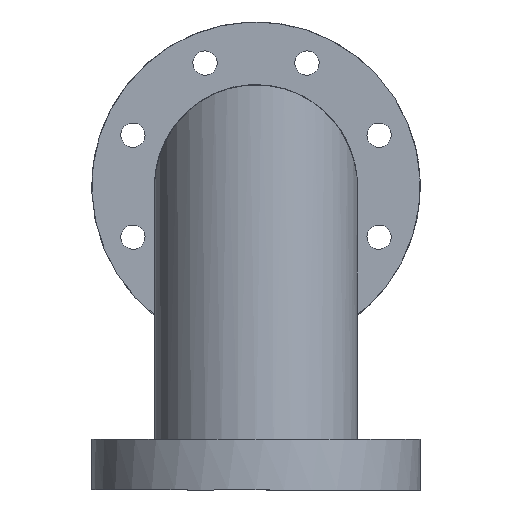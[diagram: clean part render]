
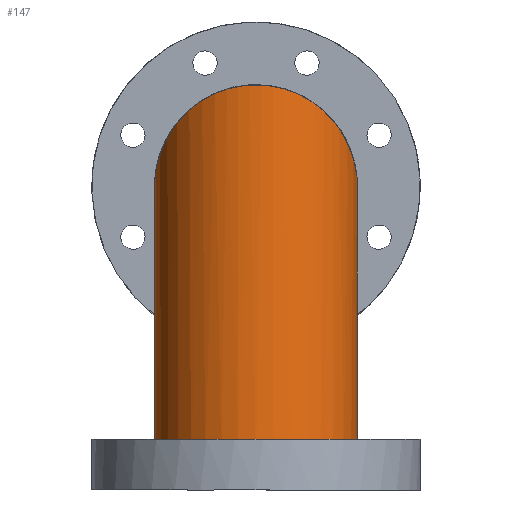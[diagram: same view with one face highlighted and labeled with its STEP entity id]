
A CAD part, left-side view. The second image highlights one B-rep face of the part: STEP entity #147.
In plain terms, the highlighted cylindrical face has radius 35 mm (diameter 70 mm), a full revolution.
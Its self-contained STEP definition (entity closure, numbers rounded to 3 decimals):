
#147 = ADVANCED_FACE( '', ( #271, #272 ), #273, .T. );
#271 = FACE_OUTER_BOUND( '', #423, .T. );
#272 = FACE_OUTER_BOUND( '', #424, .T. );
#273 = CYLINDRICAL_SURFACE( '', #425, 35. );
#423 = EDGE_LOOP( '', ( #541 ) );
#424 = EDGE_LOOP( '', ( #542 ) );
#425 = AXIS2_PLACEMENT_3D( '', #543, #544, #545 );
#541 = ORIENTED_EDGE( '', *, *, #721, .F. );
#542 = ORIENTED_EDGE( '', *, *, #722, .F. );
#543 = CARTESIAN_POINT( '', ( -96.9, 0., 150. ) );
#544 = DIRECTION( '', ( 0., 0., -1. ) );
#545 = DIRECTION( '', ( -1., 0., 0. ) );
#721 = EDGE_CURVE( '', #788, #788, #789, .T. );
#722 = EDGE_CURVE( '', #790, #790, #791, .T. );
#788 = VERTEX_POINT( '', #889 );
#789 = CIRCLE( '', #890, 35. );
#790 = VERTEX_POINT( '', #891 );
#791 = ELLIPSE( '', #892, 49.497, 35. );
#889 = CARTESIAN_POINT( '', ( -61.9, 0., 0. ) );
#890 = AXIS2_PLACEMENT_3D( '', #1046, #1047, #1048 );
#891 = CARTESIAN_POINT( '', ( -61.9, 0., 61.9 ) );
#892 = AXIS2_PLACEMENT_3D( '', #1049, #1050, #1051 );
#1046 = CARTESIAN_POINT( '', ( -96.9, 0., 0. ) );
#1047 = DIRECTION( '', ( 0., 0., -1. ) );
#1048 = DIRECTION( '', ( 1., 0., 0. ) );
#1049 = CARTESIAN_POINT( '', ( -96.9, 0., 96.9 ) );
#1050 = DIRECTION( '', ( 0.707, 0., 0.707 ) );
#1051 = DIRECTION( '', ( 0.707, 0., -0.707 ) );
